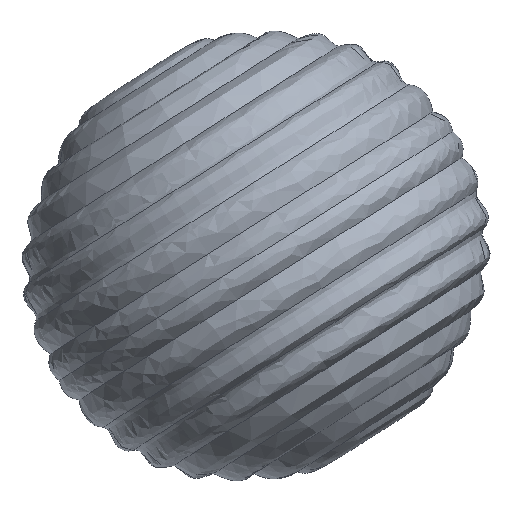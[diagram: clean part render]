
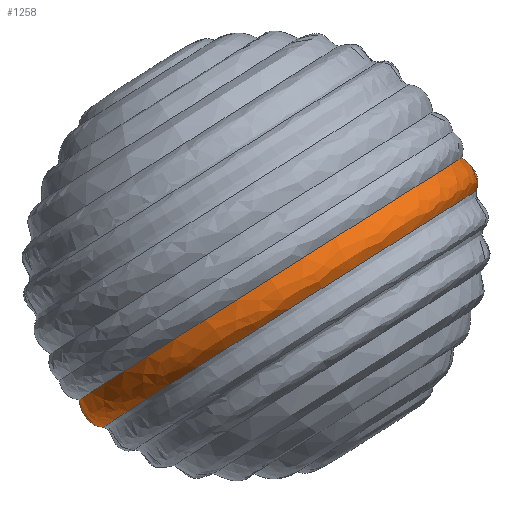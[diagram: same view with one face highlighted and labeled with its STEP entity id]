
A CAD part, top view. The second image highlights one B-rep face of the part: STEP entity #1258.
In plain terms, the highlighted free-form (B-spline) face has degree [3, 3] with [4, 4] control points.
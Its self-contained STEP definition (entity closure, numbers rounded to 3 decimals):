
#19 = EDGE_CURVE ( 'NONE', #1037, #1255, #460, .T. ) ;
#57 = CARTESIAN_POINT ( 'NONE',  ( 124.331, -440.215, 0. ) ) ;
#58 = CARTESIAN_POINT ( 'NONE',  ( 29.319, -487.246, 210.873 ) ) ;
#95 = EDGE_CURVE ( 'NONE', #1289, #985, #1217, .T. ) ;
#132 = ORIENTED_EDGE ( 'NONE', *, *, #898, .T. ) ;
#161 = CARTESIAN_POINT ( 'NONE',  ( 115.613, -426.438, 0. ) ) ;
#164 = CARTESIAN_POINT ( 'NONE',  ( 209.134, -386.55, 0. ) ) ;
#209 = ORIENTED_EDGE ( 'NONE', *, *, #19, .T. ) ;
#252 = CARTESIAN_POINT ( 'NONE',  ( 32.736, -493.78, 0. ) ) ;
#264 = CARTESIAN_POINT ( 'NONE',  ( 39.529, -493.88, 0. ) ) ;
#362 = CARTESIAN_POINT ( 'NONE',  ( 39.529, -493.88, 0. ) ) ;
#369 = CARTESIAN_POINT ( 'NONE',  ( 29.319, -487.246, 0. ) ) ;
#374 = DIRECTION ( 'NONE',  ( 0.845, 0.535, 0. ) ) ;
#376 = CARTESIAN_POINT ( 'NONE',  ( 28.578, -481.516, 0. ) ) ;
#402 = CARTESIAN_POINT ( 'NONE',  ( 28.578, -481.516, 205.997 ) ) ;
#407 = DIRECTION ( 'NONE',  ( 0.845, 0.535, 0. ) ) ;
#412 = CARTESIAN_POINT ( 'NONE',  ( 32.736, -493.78, 212.086 ) ) ;
#448 = CARTESIAN_POINT ( 'NONE',  ( 211.952, -380.368, 0. ) ) ;
#451 = ORIENTED_EDGE ( 'NONE', *, *, #754, .F. ) ;
#460 = CIRCLE ( 'NONE', #1052, 102.999 ) ;
#464 = CARTESIAN_POINT ( 'NONE',  ( 39.529, -493.88, 0. ) ) ;
#494 = DIRECTION ( 'NONE',  ( 0.535, -0.845, 0. ) ) ;
#499 = CARTESIAN_POINT ( 'NONE',  ( 209.134, -386.55, 0. ) ) ;
#513 = CARTESIAN_POINT ( 'NONE',  ( 209.134, -386.55, 200.713 ) ) ;
#577 = EDGE_LOOP ( 'NONE', ( #451, #601, #132, #209 ) ) ;
#601 = ORIENTED_EDGE ( 'NONE', *, *, #95, .F. ) ;
#605 = CARTESIAN_POINT ( 'NONE',  ( 28.578, -481.516, 0. ) ) ;
#611 = CARTESIAN_POINT ( 'NONE',  ( 39.529, -493.88, 200.713 ) ) ;
#649 = AXIS2_PLACEMENT_3D ( 'NONE', #57, #1194, #374 ) ;
#662 = CARTESIAN_POINT ( 'NONE',  ( 202.648, -371.36, 0. ) ) ;
#677 =( BOUNDED_SURFACE ( )  B_SPLINE_SURFACE ( 3, 3, ( 
 ( #164, #513, #611, #264 ),
 ( #912, #925, #412, #812 ),
 ( #1338, #1344, #58, #1010 ),
 ( #722, #1122, #402, #1136 ) ),
 .UNSPECIFIED., .F., .F., .F. ) 
 B_SPLINE_SURFACE_WITH_KNOTS ( ( 4, 4 ),
 ( 4, 4 ),
 ( 0., 1. ),
 ( 0., 1. ),
 .UNSPECIFIED. ) 
 GEOMETRIC_REPRESENTATION_ITEM ( )  RATIONAL_B_SPLINE_SURFACE ( (
 ( 1., 0.333, 0.333, 1.),
 ( 1., 0.333, 0.333, 1.),
 ( 1., 0.333, 0.333, 1.),
 ( 1., 0.333, 0.333, 1.) ) ) 
 REPRESENTATION_ITEM ( '' )  SURFACE ( )  );
#722 = CARTESIAN_POINT ( 'NONE',  ( 202.648, -371.36, 0. ) ) ;
#745 = B_SPLINE_CURVE_WITH_KNOTS ( 'NONE', 3,
 ( #876, #448, #801, #1284 ),
 .UNSPECIFIED., .F., .F.,
 ( 4, 4 ),
 ( 0., 1. ),
 .UNSPECIFIED. ) ;
#754 = EDGE_CURVE ( 'NONE', #985, #1255, #1303, .T. ) ;
#801 = CARTESIAN_POINT ( 'NONE',  ( 207.51, -374.483, 0. ) ) ;
#812 = CARTESIAN_POINT ( 'NONE',  ( 32.736, -493.78, 0. ) ) ;
#876 = CARTESIAN_POINT ( 'NONE',  ( 209.134, -386.55, 0. ) ) ;
#898 = EDGE_CURVE ( 'NONE', #1289, #1037, #745, .T. ) ;
#912 = CARTESIAN_POINT ( 'NONE',  ( 211.952, -380.368, 0. ) ) ;
#925 = CARTESIAN_POINT ( 'NONE',  ( 211.952, -380.368, 212.086 ) ) ;
#985 = VERTEX_POINT ( 'NONE', #464 ) ;
#1010 = CARTESIAN_POINT ( 'NONE',  ( 29.319, -487.246, 0. ) ) ;
#1037 = VERTEX_POINT ( 'NONE', #662 ) ;
#1052 = AXIS2_PLACEMENT_3D ( 'NONE', #161, #494, #407 ) ;
#1122 = CARTESIAN_POINT ( 'NONE',  ( 202.648, -371.36, 205.997 ) ) ;
#1136 = CARTESIAN_POINT ( 'NONE',  ( 28.578, -481.516, 0. ) ) ;
#1194 = DIRECTION ( 'NONE',  ( 0.535, -0.845, 0. ) ) ;
#1217 = CIRCLE ( 'NONE', #649, 100.356 ) ;
#1236 = FACE_OUTER_BOUND ( 'NONE', #577, .T. ) ;
#1255 = VERTEX_POINT ( 'NONE', #605 ) ;
#1258 = ADVANCED_FACE ( 'NONE', ( #1236 ), #677, .T. ) ;
#1284 = CARTESIAN_POINT ( 'NONE',  ( 202.648, -371.36, 0. ) ) ;
#1289 = VERTEX_POINT ( 'NONE', #499 ) ;
#1303 = B_SPLINE_CURVE_WITH_KNOTS ( 'NONE', 3,
 ( #362, #252, #369, #376 ),
 .UNSPECIFIED., .F., .F.,
 ( 4, 4 ),
 ( 0., 1. ),
 .UNSPECIFIED. ) ;
#1338 = CARTESIAN_POINT ( 'NONE',  ( 207.51, -374.483, 0. ) ) ;
#1344 = CARTESIAN_POINT ( 'NONE',  ( 207.51, -374.483, 210.873 ) ) ;
